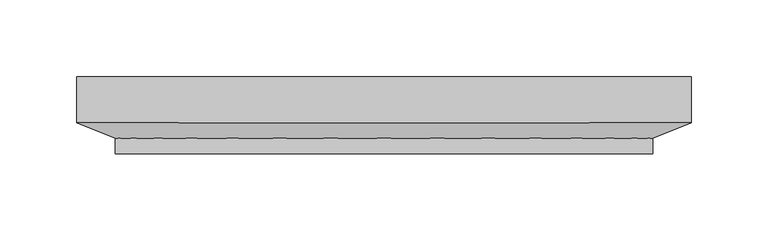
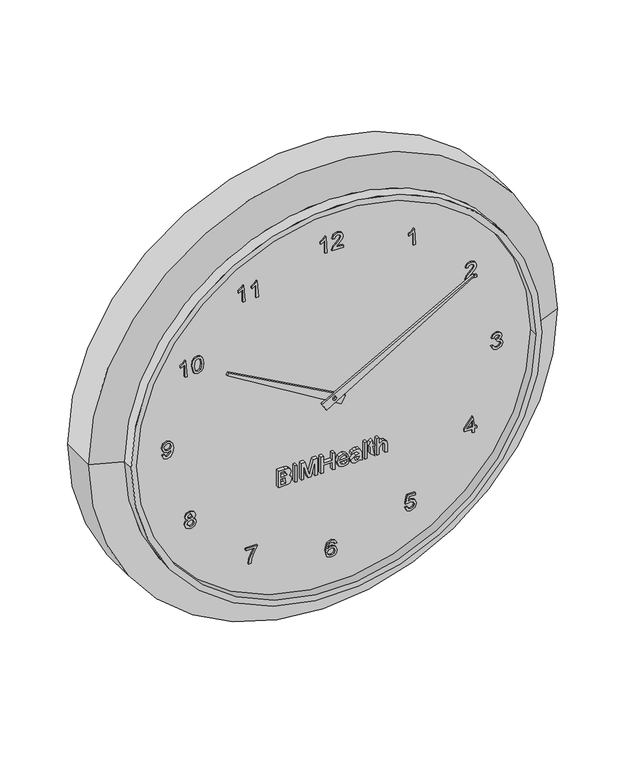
"""IFC4 building model written with IfcOpenShell, lengths in millimetres: flow terminal geometry, BIMHealth-Analogue-Clockl-LOD2A-v1 : BIMHealth-Analogue-Clockl-LOD2A-v1."""

from ifc_helpers import new_model, si_unit, point, frame, frame_2d, origin, place, context, project, spatial, polyline, circle_curve, trimmed, segment, composite_curve, outline, extrude, source, transform, mapped, element, save
from ifc_brep_helpers import plane_surface, cylinder_surface, revolved_surface, advanced_brep


def flow_terminal_1bc39f43(model_context):
    return source(origin(), model_context, "Body", "SolidModel", [
        extrude(outline(polyline([(1898.2263025, 10.5229606), (1952.6551957, -88.8619994), (1950.629151, -90.0317368), (1891.7736975, 6.7975474), (1898.2263025, 10.5229606)]), holes=[composite_curve([segment(trimmed(circle_curve(frame_2d((1900.0, 0.0)), 1.5), [point((1898.7009619, -0.75))], [point((1901.2990381, 0.75))], True, "CARTESIAN"), True, "CONTINUOUS"), segment(trimmed(circle_curve(frame_2d((1900.0, 0.0)), 1.5), [point((1901.2990381, 0.75))], [point((1898.7009619, -0.75))], True, "CARTESIAN"), True, "CONTINUOUS")], self_intersect=False)]), frame((0.0, -45.40625, 0.0), z_axis=(0.0, 1.0, 0.0), x_axis=(0.0, 0.0, 1.0)), (0.0, 0.0, 1.0), 2.0),
        extrude(outline(polyline([(1891.7736975, -6.7975474), (1968.321049, 119.1385352), (1969.0164736, 118.7370317), (1898.2263025, -10.5229606), (1891.7736975, -6.7975474)]), holes=[composite_curve([segment(trimmed(circle_curve(frame_2d((1900.0, 0.0)), 1.5), [point((1901.2990381, -0.75))], [point((1898.7009619, 0.75))], True, "CARTESIAN"), True, "CONTINUOUS"), segment(trimmed(circle_curve(frame_2d((1900.0, 0.0)), 1.5), [point((1898.7009619, 0.75))], [point((1901.2990381, -0.75))], True, "CARTESIAN"), True, "CONTINUOUS")], self_intersect=False)]), frame((0.0, -47.40625, 0.0), z_axis=(0.0, 1.0, 0.0), x_axis=(0.0, 0.0, 1.0)), (0.0, 0.0, 1.0), 2.0),
        extrude(outline(polyline([(2010.8903269, 71.6016191), (2025.6595576, 70.4117153), (2023.6944134, 68.7692874), (2021.9672499, 66.0631576), (2020.2220576, 66.0631576), (2021.154149, 68.0066672), (2022.3999422, 69.7554653), (2010.8903269, 69.7554653), (2010.8903269, 71.6016191)])), frame((0.0, -43.0, 0.0), z_axis=(0.0, 1.0, 0.0), x_axis=(0.0, 0.0, 1.0)), (0.0, 0.0, 1.0), 43.0),
        extrude(outline(polyline([(1965.5855923, 123.7909691), (1966.5248952, 117.3726998), (1968.3007365, 119.4964979), (1970.8301836, 122.1413297), (1972.6402798, 123.2320748), (1974.3908807, 123.5601998), (1977.3259769, 122.3432527), (1978.5086692, 119.0385652), (1977.4449673, 115.744695), (1974.354823, 114.3294306), (1974.1240538, 116.1755845), (1975.9882365, 116.9526277), (1976.6625154, 118.9989018), (1975.9720105, 120.9622431), (1974.2791019, 121.714046), (1972.1877557, 120.9189739), (1969.1120346, 117.7332768), (1966.9720105, 115.4201758), (1963.7394384, 114.0986614), (1963.7394384, 123.7909691), (1965.5855923, 123.7909691)])), frame((0.0, -43.0, 0.0), z_axis=(0.0, 1.0, 0.0), x_axis=(0.0, 0.0, 1.0)), (0.0, 0.0, 1.0), 43.0),
        extrude(outline(polyline([(1896.4230769, 136.1907378), (1893.4266827, 137.6582859), (1892.2692308, 140.8962666), (1893.625, 144.469584), (1896.9278846, 145.8830455), (1899.3293269, 145.1763147), (1900.5913462, 143.1642955), (1901.8137019, 144.6787186), (1903.515625, 145.1907378), (1905.3780048, 144.6516753), (1906.7626202, 143.093983), (1907.2692308, 140.8674205), (1906.2415865, 137.9323243), (1903.3461538, 136.421507), (1903.1153846, 138.2676609), (1904.8461538, 139.172709), (1905.4230769, 140.9323243), (1904.8515625, 142.6703051), (1903.4074519, 143.344584), (1901.7776442, 142.4142955), (1901.2692308, 140.0236705), (1899.625, 141.1126128), (1898.8695913, 143.2111705), (1896.9603365, 144.0368916), (1894.9338942, 143.203959), (1894.1153846, 140.9611705), (1894.7103365, 139.0555215), (1896.6538462, 138.0368916), (1896.4230769, 136.1907378)])), frame((0.0, -43.0, 0.0), z_axis=(0.0, 1.0, 0.0), x_axis=(0.0, 0.0, 1.0)), (0.0, 0.0, 1.0), 43.0),
        extrude(outline(polyline([(1824.3939881, 119.9021767), (1824.3939881, 121.7483305), (1827.8555265, 121.7483305), (1827.8555265, 123.5944844), (1829.7016804, 123.5944844), (1829.7016804, 121.7483305), (1838.9324496, 120.3637151), (1829.7016804, 113.209869), (1827.8555265, 113.209869), (1827.8555265, 119.9021767), (1824.3939881, 119.9021767)]), holes=[polyline([(1829.7016804, 119.9021767), (1829.7016804, 115.4815036), (1835.4060073, 119.9021767), (1829.7016804, 119.9021767)])]), frame((0.0, -43.0, 0.0), z_axis=(0.0, 1.0, 0.0), x_axis=(0.0, 0.0, 1.0)), (0.0, 0.0, 1.0), 43.0),
        extrude(outline(polyline([(1777.010129, 62.5952407), (1773.993903, 64.0357455), (1772.8562828, 67.293558), (1774.6267155, 71.1300964), (1778.0521963, 72.2875484), (1781.4560425, 71.0002888), (1782.7793598, 67.8416349), (1781.7120521, 65.1409138), (1785.7793598, 65.934183), (1785.7793598, 71.5952407), (1787.6255136, 71.5952407), (1787.6255136, 64.4413945), (1780.010129, 62.8260099), (1780.6122925, 65.7088224), (1780.9332059, 67.3296157), (1780.1291194, 69.667957), (1777.9368117, 70.4413945), (1775.587653, 69.6156734), (1774.7024367, 67.3007695), (1775.338855, 65.371683), (1777.2408982, 64.4413945), (1777.010129, 62.5952407)])), frame((0.0, -43.0, 0.0), z_axis=(0.0, 1.0, 0.0), x_axis=(0.0, 0.0, 1.0)), (0.0, 0.0, 1.0), 43.0),
        extrude(outline(polyline([(1785.6201, -72.976286), (1785.6201, -65.1301321), (1781.7997875, -67.9209975), (1777.0924558, -69.9348196), (1772.9277923, -70.6685937), (1772.9277923, -68.8224398), (1776.9410135, -68.1373437), (1782.0017106, -66.0333773), (1787.4662539, -63.2839783), (1787.4662539, -72.976286), (1785.6201, -72.976286)])), frame((0.0, -43.0, 0.0), z_axis=(0.0, 1.0, 0.0), x_axis=(0.0, 0.0, 1.0)), (0.0, 0.0, 1.0), 43.0),
        extrude(outline(polyline([(1830.6901784, -122.4141528), (1829.3488323, -124.4045375), (1826.9041207, -125.1040567), (1823.6354909, -123.7699221), (1822.3247938, -120.2579028), (1823.6300823, -116.7458836), (1826.85364, -115.411749), (1829.2424621, -116.084225), (1830.6901784, -118.0475663), (1831.8314044, -116.41235), (1833.571188, -115.8732875), (1836.2322457, -117.0848259), (1837.3247938, -120.2831432), (1836.2574861, -123.4526144), (1833.6216688, -124.6425182), (1831.836813, -124.0962442), (1830.6901784, -122.4141528)]), holes=[polyline([(1834.2418611, -122.4637322), (1835.47864, -120.2579028), (1832.1144573, -118.3684798), (1831.555563, -120.2362682), (1832.118063, -122.1419173), (1834.2418611, -122.4637322)]), polyline([(1826.9690246, -123.2579028), (1828.9269573, -122.4772538), (1829.7094092, -120.3047778), (1828.91614, -118.0692009), (1826.9113323, -117.2579028), (1824.9443851, -118.0439605), (1824.1709476, -120.2434798), (1826.9690246, -123.2579028)])]), frame((0.0, -43.0, 0.0), z_axis=(0.0, 1.0, 0.0), x_axis=(0.0, 0.0, 1.0)), (0.0, 0.0, 1.0), 43.0),
        extrude(outline(polyline([(1896.1923077, -144.2847158), (1893.2986779, -142.9613985), (1892.2692308, -140.1236581), (1893.1418269, -137.2732976), (1895.6820913, -135.4397639), (1900.1658654, -134.8231774), (1904.2980769, -135.4415668), (1906.4975962, -137.251663), (1907.2692308, -139.8820716), (1905.9170673, -143.1939706), (1902.3473558, -144.5154851), (1898.8894231, -143.2552687), (1897.5769231, -140.1705331), (1898.1141827, -138.1458937), (1899.1526442, -136.6585139), (1897.0108173, -136.9253408), (1894.1153846, -140.0371197), (1894.6616587, -141.6092351), (1896.4230769, -142.438562), (1896.1923077, -144.2847158)]), holes=[polyline([(1902.390625, -136.6693312), (1900.2109375, -137.5040668), (1899.4230769, -139.6332735), (1900.2109375, -141.8508216), (1902.2572115, -142.6693312), (1904.5414663, -141.8039466), (1905.4230769, -139.5827928), (1904.6045673, -137.4662062), (1902.390625, -136.6693312)])]), frame((0.0, -43.0, 0.0), z_axis=(0.0, 1.0, 0.0), x_axis=(0.0, 0.0, 1.0)), (0.0, 0.0, 1.0), 43.0),
        extrude(outline(polyline([(1960.0718195, -123.1776732), (1974.8410502, -124.3675771), (1972.875906, -126.010005), (1971.1487425, -128.7161348), (1969.4035502, -128.7161348), (1970.3356416, -126.7726252), (1971.5814348, -125.0238271), (1960.0718195, -125.0238271), (1960.0718195, -123.1776732)])), frame((0.0, -43.0, 0.0), z_axis=(0.0, 1.0, 0.0), x_axis=(0.0, 0.0, 1.0)), (0.0, 0.0, 1.0), 43.0),
        extrude(outline(polyline([(1967.3374445, -118.7930579), (1961.2473002, -117.321904), (1959.8410502, -113.946904), (1960.6505454, -111.24438), (1963.1060743, -109.6380098), (1967.3374445, -109.1007502), (1970.8079973, -109.4360867), (1972.9930935, -110.3014713), (1974.3650887, -111.790654), (1974.8410502, -113.946904), (1974.0369637, -116.6386107), (1971.5868435, -118.2503896), (1967.3374445, -118.7930579)]), holes=[polyline([(1967.3410502, -116.946904), (1972.0069156, -116.0526732), (1972.9948964, -113.9685386), (1971.8735021, -111.7834425), (1967.3410502, -110.946904), (1962.7599204, -111.8122886), (1961.6872041, -113.946904), (1962.7563146, -116.0815194), (1967.3410502, -116.946904)])]), frame((0.0, -43.0, 0.0), z_axis=(0.0, 1.0, 0.0), x_axis=(0.0, 0.0, 1.0)), (0.0, 0.0, 1.0), 43.0),
        extrude(outline(polyline([(2010.6188527, -73.6659272), (2025.3880835, -74.8558311), (2023.4229392, -76.4982589), (2021.6957758, -79.2043887), (2019.9505835, -79.2043887), (2020.8826748, -77.2608791), (2022.1284681, -75.5120811), (2010.6188527, -75.5120811), (2010.6188527, -73.6659272)])), frame((0.0, -43.0, 0.0), z_axis=(0.0, 1.0, 0.0), x_axis=(0.0, 0.0, 1.0)), (0.0, 0.0, 1.0), 43.0),
        extrude(outline(polyline([(2010.6188527, -62.3582349), (2025.3880835, -63.5481387), (2023.4229392, -65.1905666), (2021.6957758, -67.8966964), (2019.9505835, -67.8966964), (2020.8826748, -65.9531868), (2022.1284681, -64.2043887), (2010.6188527, -64.2043887), (2010.6188527, -62.3582349)])), frame((0.0, -43.0, 0.0), z_axis=(0.0, 1.0, 0.0), x_axis=(0.0, 0.0, 1.0)), (0.0, 0.0, 1.0), 43.0),
        extrude(outline(polyline([(1765.8158728, 4.4419713), (1768.6968824, 3.0789905), (1769.7389497, 0.1619232), (1768.0550555, -3.6349518), (1761.8639497, -5.2503364), (1756.3976035, -3.7954085), (1754.7389497, -0.0327883), (1755.3645507, 2.3866828), (1757.1674353, 4.0633655), (1759.7149112, 4.6727405), (1763.1151516, 3.3782694), (1764.4312574, 0.2412501), (1763.9498872, -1.7761777), (1762.4769305, -3.4041825), (1765.7671949, -2.8795431), (1767.4456805, -1.6193268), (1767.8927958, 0.0465386), (1767.124767, 1.8962982), (1765.5851035, 2.5958175), (1765.8158728, 4.4419713)]), holes=[polyline([(1759.7437574, -3.4041825), (1761.8008487, -2.4865143), (1762.5851035, -0.2527402), (1761.8008487, 2.00988), (1759.6536132, 2.8265867), (1757.4108247, 1.9990626), (1756.5851035, -0.1770191), (1756.983541, -1.8410816), (1758.1445987, -2.9768989), (1759.7437574, -3.4041825)])]), frame((0.0, -43.0, 0.0), z_axis=(0.0, 1.0, 0.0), x_axis=(0.0, 0.0, 1.0)), (0.0, 0.0, 1.0), 43.0),
        extrude(outline(polyline([(2030.0302811, -3.7214902), (2044.7995118, -4.9113941), (2042.8343676, -6.553822), (2041.1072042, -9.2599518), (2039.3620118, -9.2599518), (2040.2941032, -7.3164422), (2041.5398965, -5.5676441), (2030.0302811, -5.5676441), (2030.0302811, -3.7214902)])), frame((0.0, -43.0, 0.0), z_axis=(0.0, 1.0, 0.0), x_axis=(0.0, 0.0, 1.0)), (0.0, 0.0, 1.0), 43.0),
        extrude(outline(polyline([(2031.8764349, 10.1246636), (2032.8157378, 3.7063944), (2034.5915792, 5.8301925), (2037.1210263, 8.4750242), (2038.9311224, 9.5657694), (2040.6817234, 9.8938944), (2043.6168195, 8.6769473), (2044.7995118, 5.3722598), (2043.7358099, 2.0783896), (2040.6456657, 0.6631251), (2040.4148965, 2.509279), (2042.2790792, 3.2863223), (2042.953358, 5.3325963), (2042.2628532, 7.2959376), (2040.5699445, 8.0477405), (2038.4785984, 7.2526684), (2035.4028772, 4.0669713), (2033.2628532, 1.7538703), (2030.0302811, 0.4323559), (2030.0302811, 10.1246636), (2031.8764349, 10.1246636)])), frame((0.0, -43.0, 0.0), z_axis=(0.0, 1.0, 0.0), x_axis=(0.0, 0.0, 1.0)), (0.0, 0.0, 1.0), 43.0),
        extrude(outline(polyline([(1834.4804376, -46.2419262), (1834.4804376, -40.6493782), (1834.7346444, -38.2821907), (1835.4846444, -36.6758205), (1836.8981059, -35.5994984), (1838.8830819, -35.1650032), (1841.1799569, -35.8014214), (1842.5573607, -37.620532), (1843.8644521, -36.1223349), (1845.5898126, -35.6265416), (1847.4792357, -36.2160849), (1848.8151732, -37.8458926), (1849.2496684, -40.6061089), (1849.2496684, -46.2419262), (1834.4804376, -46.2419262)]), holes=[polyline([(1843.2496684, -44.3957724), (1847.4035146, -44.3957724), (1847.4035146, -41.2803878), (1843.4083223, -39.0556282), (1843.2496684, -41.0243782), (1843.2496684, -44.3957724)]), polyline([(1836.3265915, -44.3957724), (1841.4035146, -44.3957724), (1841.4035146, -40.7900032), (1836.3265915, -40.6097147), (1836.3265915, -44.3957724)])]), frame((0.0, -45.0, 0.0), z_axis=(0.0, 1.0, 0.0), x_axis=(0.0, 0.0, 1.0)), (0.0, 0.0, 1.0), 45.0),
        extrude(outline(polyline([(-30.5496186, -45.0), (-32.3957724, -45.0), (-32.3957724, 0.0), (-30.5496186, 0.0), (-30.5496186, -45.0)])), frame((0.0, 0.0, 1834.4804376), z_axis=(0.0, 0.0, 1.0), x_axis=(1.0, 0.0, 0.0)), (0.0, 0.0, 1.0), 14.7692308),
        extrude(outline(polyline([(1834.4804376, -26.8573109), (1834.4804376, -25.011157), (1847.4035146, -25.011157), (1834.4804376, -21.2972147), (1834.4804376, -18.7984166), (1847.4035146, -15.0880801), (1834.4804376, -15.0880801), (1834.4804376, -13.2419262), (1849.2496684, -13.2419262), (1849.2496684, -16.4186089), (1839.0201011, -19.3897628), (1836.6655338, -20.0496186), (1838.8398126, -20.6625993), (1849.2496684, -23.6914455), (1849.2496684, -26.8573109), (1834.4804376, -26.8573109)])), frame((0.0, -45.0, 0.0), z_axis=(0.0, 1.0, 0.0), x_axis=(0.0, 0.0, 1.0)), (0.0, 0.0, 1.0), 45.0),
        extrude(outline(polyline([(1834.4804376, -10.011157), (1834.4804376, -8.1650032), (1841.4035146, -8.1650032), (1841.4035146, -0.3188493), (1834.4804376, -0.3188493), (1834.4804376, 1.5273045), (1849.2496684, 1.5273045), (1849.2496684, -0.3188493), (1843.2496684, -0.3188493), (1843.2496684, -8.1650032), (1849.2496684, -8.1650032), (1849.2496684, -10.011157), (1834.4804376, -10.011157)])), frame((0.0, -45.0, 0.0), z_axis=(0.0, 1.0, 0.0), x_axis=(0.0, 0.0, 1.0)), (0.0, 0.0, 1.0), 45.0),
        extrude(outline(polyline([(1837.7112069, 12.1210545), (1836.4816396, 10.9311507), (1836.0958223, 9.1210545), (1836.9287549, 6.7430497), (1839.3265915, 5.6811507), (1839.8241876, 13.988843), (1844.0537549, 12.5880016), (1845.5573607, 8.9804295), (1844.0501492, 5.2664872), (1839.8133703, 3.8349968), (1835.7118078, 5.2520641), (1834.2496684, 9.0849968), (1835.0970242, 12.238242), (1837.4804376, 13.9311507), (1837.7112069, 12.1210545)]), holes=[polyline([(1841.1727453, 5.6811507), (1843.0207021, 6.6997805), (1843.7112069, 8.973218), (1842.8458223, 11.4035064), (1841.1727453, 12.1426891), (1841.1727453, 5.6811507)])]), frame((0.0, -45.0, 0.0), z_axis=(0.0, 1.0, 0.0), x_axis=(0.0, 0.0, 1.0)), (0.0, 0.0, 1.0), 45.0),
        extrude(outline(polyline([(1835.1727453, 22.988843), (1834.4804376, 25.0657661), (1836.0327213, 24.6979776), (1839.240053, 24.6042276), (1841.536928, 24.6042276), (1845.2292357, 22.6841555), (1845.5573607, 20.4467757), (1845.1859665, 18.0110786), (1844.1294761, 16.4029055), (1842.3265915, 15.6042276), (1843.3560386, 18.3410064), (1843.7112069, 20.2087949), (1841.4035146, 22.7472564), (1840.7688992, 19.5453334), (1837.365053, 15.3734584), (1835.1258703, 16.3091555), (1834.2496684, 18.9900449), (1834.6138511, 20.9678093), (1835.1727453, 22.988843)]), holes=[polyline([(1838.5820001, 22.6066314), (1836.537529, 21.2508622), (1836.0958223, 19.3830738), (1838.6919761, 18.191367), (1838.9912549, 19.7797084), (1838.5820001, 22.6066314)])]), frame((0.0, -45.0, 0.0), z_axis=(0.0, 1.0, 0.0), x_axis=(0.0, 0.0, 1.0)), (0.0, 0.0, 1.0), 45.0),
        extrude(outline(polyline([(28.988843, -45.0), (27.1426891, -45.0), (27.1426891, 0.0), (28.988843, 0.0), (28.988843, -45.0)])), frame((0.0, 0.0, 1834.4804376), z_axis=(0.0, 0.0, 1.0), x_axis=(1.0, 0.0, 0.0)), (0.0, 0.0, 1.0), 14.7692308),
        extrude(outline(polyline([(1836.7646924, 34.7580738), (1843.4804376, 33.8349968), (1843.4804376, 35.6811507), (1845.3265915, 35.6811507), (1845.3265915, 33.8349968), (1849.0477453, 33.8349968), (1847.9624088, 31.988843), (1845.3265915, 30.6042276), (1843.4804376, 31.988843), (1837.4551973, 31.988843), (1834.4263511, 35.9119199), (1836.7646924, 34.7580738)])), frame((0.0, -45.0, 0.0), z_axis=(0.0, 1.0, 0.0), x_axis=(0.0, 0.0, 1.0)), (0.0, 0.0, 1.0), 45.0),
        extrude(outline(polyline([(1834.4804376, 37.5273045), (1834.4804376, 39.3734584), (1840.2424569, 39.3734584), (1843.7112069, 42.1967757), (1843.1018319, 43.8626411), (1841.1547165, 44.4503814), (1834.4804376, 44.4503814), (1834.4804376, 46.2965353), (1841.3458223, 46.2965353), (1843.7725049, 45.9179295), (1845.0832021, 44.6595161), (1845.5573607, 42.5861988), (1843.8193799, 39.3734584), (1849.2496684, 39.3734584), (1849.2496684, 37.5273045), (1834.4804376, 37.5273045)])), frame((0.0, -45.0, 0.0), z_axis=(0.0, 1.0, 0.0), x_axis=(0.0, 0.0, 1.0)), (0.0, 0.0, 1.0), 45.0),
        extrude(outline(composite_curve([segment(trimmed(circle_curve(frame_2d((1900.0, 0.0)), 170.0), [point((1900.0, -170.0))], [point((1900.0, 170.0))], False, "CARTESIAN"), True, "CONTINUOUS"), segment(trimmed(circle_curve(frame_2d((1900.0, 0.0)), 170.0), [point((1900.0, 170.0))], [point((1900.0, -170.0))], False, "CARTESIAN"), True, "CONTINUOUS")], self_intersect=False)), frame((0.0, -42.0, 0.0), z_axis=(0.0, 1.0, 0.0), x_axis=(0.0, 0.0, 1.0)), (0.0, 0.0, 1.0), 2.0),
        advanced_brep(
        [(-200.0, 0.0, 1900.0), (200.0, 0.0, 1900.0), (200.0, -30.0, 1900.0), (-200.0, -30.0, 1900.0), (170.0, -40.0, 1900.0), (-170.0, -40.0, 1900.0), (175.0, -40.0, 1900.0), (-175.0, -40.0, 1900.0), (-175.0, -50.0, 1900.0), (175.0, -50.0, 1900.0), (-170.0, -50.0, 1900.0), (170.0, -50.0, 1900.0)],
        [
            (0, 1, circle_curve(frame((0.0, 0.0, 1900.0), z_axis=(0.0, 1.0, 0.0), x_axis=(1.0, 0.0, 0.0)), 200.0)),
            (1, 0, circle_curve(frame((0.0, 0.0, 1900.0), z_axis=(0.0, 1.0, 0.0), x_axis=(1.0, 0.0, 0.0)), 200.0)),
            (1, 2),
            (2, 3, circle_curve(frame((0.0, -30.0, 1900.0), z_axis=(0.0, 1.0, 0.0), x_axis=(1.0, 0.0, 0.0)), 200.0)),
            (3, 0),
            (3, 2, circle_curve(frame((0.0, -30.0, 1900.0), z_axis=(0.0, 1.0, 0.0), x_axis=(1.0, 0.0, 0.0)), 200.0)),
            (4, 5, circle_curve(frame((0.0, -40.0, 1900.0), z_axis=(0.0, -1.0, 0.0), x_axis=(1.0, 0.0, 0.0)), 170.0)),
            (5, 4, circle_curve(frame((0.0, -40.0, 1900.0), z_axis=(0.0, -1.0, 0.0), x_axis=(1.0, 0.0, 0.0)), 170.0)),
            (2, 6),
            (6, 7, circle_curve(frame((0.0, -40.0, 1900.0), z_axis=(0.0, 1.0, 0.0), x_axis=(-1.0, 0.0, 0.0)), 175.0)),
            (7, 3),
            (7, 6, circle_curve(frame((0.0, -40.0, 1900.0), z_axis=(0.0, 1.0, 0.0), x_axis=(1.0, 0.0, 0.0)), 175.0)),
            (8, 9, circle_curve(frame((0.0, -50.0, 1900.0), z_axis=(0.0, -1.0, 0.0), x_axis=(1.0, 0.0, 0.0)), 175.0)),
            (9, 8, circle_curve(frame((0.0, -50.0, 1900.0), z_axis=(0.0, -1.0, 0.0), x_axis=(1.0, 0.0, 0.0)), 175.0)),
            (10, 11, circle_curve(frame((0.0, -50.0, 1900.0), z_axis=(0.0, 1.0, 0.0), x_axis=(1.0, 0.0, 0.0)), 170.0)),
            (11, 10, circle_curve(frame((0.0, -50.0, 1900.0), z_axis=(0.0, 1.0, 0.0), x_axis=(1.0, 0.0, 0.0)), 170.0)),
            (8, 7),
            (6, 9),
            (10, 5),
            (4, 11),
        ],
        [
            plane_surface(frame((200.0, 0.0, 1900.0), z_axis=(0.0, 1.0, 0.0), x_axis=(0.0, 0.0, -1.0))),
            cylinder_surface(frame((0.0, 0.0, 1900.0), z_axis=(0.0, -1.0, 0.0), x_axis=(1.0, 0.0, 0.0)), 200.0),
            plane_surface(frame((0.0, -40.0, 1900.0), z_axis=(0.0, -1.0, 0.0), x_axis=(0.0, 0.0, -1.0))),
            revolved_surface(polyline([(175.0, -40.0, 1900.0), (200.0, -30.0, 1900.0)]), (0.0, -110.0, 1900.0), (0.0, 1.0, 0.0)),
            plane_surface(frame((175.0, -50.0, 1900.0), z_axis=(0.0, -1.0, 0.0), x_axis=(0.0, 0.0, 1.0))),
            cylinder_surface(frame((0.0, -30.0, 1900.0), z_axis=(0.0, -1.0, 0.0), x_axis=(1.0, 0.0, 0.0)), 175.0),
            revolved_surface(polyline([(170.0, -40.0, 1900.0), (170.0, -50.0, 1900.0)]), (0.0, -30.0, 1900.0), (0.0, 1.0, 0.0)),
        ],
        [
            (0, [[1, 2]]),
            (1, [[-2, 3, 4, 5]]),
            (1, [[-1, -5, 6, -3]]),
            (2, [[7, 8]]),
            (3, [[9, 10, 11, -4]]),
            (3, [[-9, -6, -11, 12]]),
            (4, [[13, 14], [15, 16]]),
            (5, [[-13, 17, -10, 18]]),
            (5, [[-14, -18, -12, -17]]),
            (6, [[-15, 19, -7, 20]]),
            (6, [[-16, -20, -8, -19]]),
        ],
    ),
    ])


if __name__ == "__main__":
    model = new_model("IFC4")
    model_context = context("Model", 3, world=origin())
    ifc_project = project(units=[si_unit("LENGTHUNIT", "METRE", prefix="MILLI")], contexts=[model_context])
    site = spatial("IfcSite", under=ifc_project)
    building = spatial("IfcBuilding", under=site)
    placement = place(None, origin())
    flow_terminal_shape = flow_terminal_1bc39f43(model_context)
    element("IfcFlowTerminal", 1, ObjectType="BIMHealth-Analogue-Clockl-LOD2A-v1 : BIMHealth-Analogue-Clockl-LOD2A-v1", at=placement, inside=building, context=model_context, shape_type="MappedRepresentation", body=[
        mapped(flow_terminal_shape, transform((0.0, 0.0, 0.0), x_axis=(1.0, 0.0, 0.0), y_axis=(0.0, 1.0, 0.0), z_axis=(0.0, 0.0, 1.0))),
    ])
    save(model, "model.ifc")
